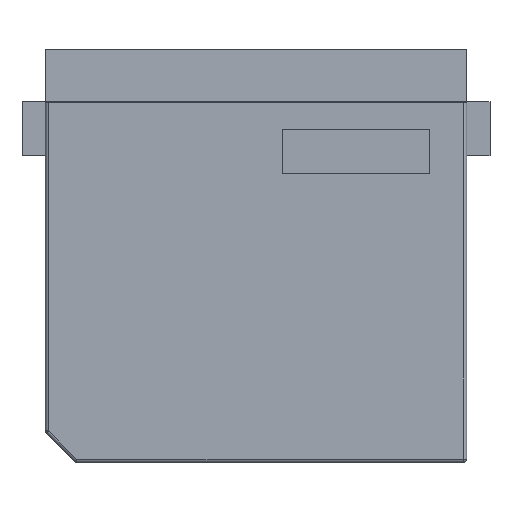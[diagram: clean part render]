
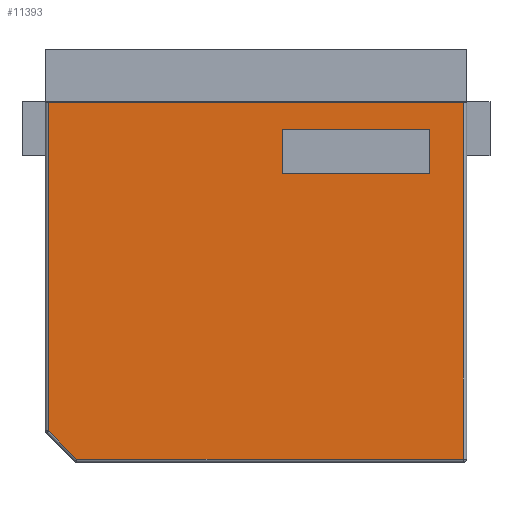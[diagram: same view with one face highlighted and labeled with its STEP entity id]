
A CAD part, front view. The second image highlights one B-rep face of the part: STEP entity #11393.
In plain terms, the highlighted planar face has unit normal (0, -1, 0).
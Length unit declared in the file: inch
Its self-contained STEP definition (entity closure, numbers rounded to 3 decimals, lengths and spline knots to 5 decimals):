
#357=DIRECTION('',(0.,0.,-1.));
#358=VECTOR('',#357,1.93279);
#359=CARTESIAN_POINT('',(0.01969,-0.04134,
0.49803));
#360=LINE('',#359,#358);
#361=DIRECTION('',(1.,0.,0.));
#362=VECTOR('',#361,2.44094);
#363=CARTESIAN_POINT('',(0.01969,-0.04134,
0.49803));
#364=LINE('',#363,#362);
#365=DIRECTION('',(0.,0.,1.));
#366=VECTOR('',#365,2.09843);
#367=CARTESIAN_POINT('',(2.46063,-0.04134,
-1.60039));
#368=LINE('',#367,#366);
#369=DIRECTION('',(1.,0.,0.));
#370=VECTOR('',#369,2.27531);
#371=CARTESIAN_POINT('',(0.18532,-0.04134,
-1.60039));
#372=LINE('',#371,#370);
#373=DIRECTION('',(0.707,0.,-0.707));
#374=VECTOR('',#373,0.23424);
#375=CARTESIAN_POINT('',(0.01969,-0.04134,
-1.43476));
#376=LINE('',#375,#374);
#377=DIRECTION('',(0.,0.,-1.));
#378=VECTOR('',#377,0.25984);
#379=CARTESIAN_POINT('',(1.39764,-0.04134,
0.34055));
#380=LINE('',#379,#378);
#381=DIRECTION('',(1.,0.,0.));
#382=VECTOR('',#381,0.86614);
#383=CARTESIAN_POINT('',(1.39764,-0.04134,
0.08071));
#384=LINE('',#383,#382);
#385=DIRECTION('',(0.,0.,1.));
#386=VECTOR('',#385,0.25984);
#387=CARTESIAN_POINT('',(2.26378,-0.04134,
0.08071));
#388=LINE('',#387,#386);
#389=DIRECTION('',(-1.,0.,0.));
#390=VECTOR('',#389,0.86614);
#391=CARTESIAN_POINT('',(2.26378,-0.04134,
0.34055));
#392=LINE('',#391,#390);
#10963=CARTESIAN_POINT('',(1.39764,-0.04134,
0.34055));
#10964=CARTESIAN_POINT('',(1.39764,-0.04134,
0.08071));
#10965=VERTEX_POINT('',#10963);
#10966=VERTEX_POINT('',#10964);
#10967=CARTESIAN_POINT('',(2.26378,-0.04134,
0.08071));
#10968=VERTEX_POINT('',#10967);
#10969=CARTESIAN_POINT('',(2.26378,-0.04134,
0.34055));
#10970=VERTEX_POINT('',#10969);
#10972=CARTESIAN_POINT('',(0.01969,-0.04134,
0.49803));
#10974=VERTEX_POINT('',#10972);
#10975=CARTESIAN_POINT('',(0.01969,-0.04134,
-1.43476));
#10976=VERTEX_POINT('',#10975);
#11007=CARTESIAN_POINT('',(0.18532,-0.04134,
-1.60039));
#11008=CARTESIAN_POINT('',(2.46063,-0.04134,
-1.60039));
#11009=VERTEX_POINT('',#11007);
#11010=VERTEX_POINT('',#11008);
#11011=CARTESIAN_POINT('',(2.46063,-0.04134,
0.49803));
#11013=VERTEX_POINT('',#11011);
#11367=CARTESIAN_POINT('',(1.24016,-0.04134,
-0.56102));
#11368=DIRECTION('',(0.,1.,0.));
#11369=DIRECTION('',(1.,0.,0.));
#11370=AXIS2_PLACEMENT_3D('',#11367,#11368,#11369);
#11371=PLANE('',#11370);
#11373=ORIENTED_EDGE('',*,*,#11372,.F.);
#11375=ORIENTED_EDGE('',*,*,#11374,.T.);
#11377=ORIENTED_EDGE('',*,*,#11376,.F.);
#11379=ORIENTED_EDGE('',*,*,#11378,.F.);
#11380=ORIENTED_EDGE('',*,*,#11358,.F.);
#11381=EDGE_LOOP('',(#11373,#11375,#11377,#11379,#11380));
#11382=FACE_OUTER_BOUND('',#11381,.F.);
#11384=ORIENTED_EDGE('',*,*,#11383,.T.);
#11386=ORIENTED_EDGE('',*,*,#11385,.T.);
#11388=ORIENTED_EDGE('',*,*,#11387,.T.);
#11390=ORIENTED_EDGE('',*,*,#11389,.T.);
#11391=EDGE_LOOP('',(#11384,#11386,#11388,#11390));
#11392=FACE_BOUND('',#11391,.F.);
#11393=ADVANCED_FACE('',(#11382,#11392),#11371,.F.);
#11358=EDGE_CURVE('',#10976,#11009,#376,.T.);
#11372=EDGE_CURVE('',#10974,#10976,#360,.T.);
#11374=EDGE_CURVE('',#10974,#11013,#364,.T.);
#11376=EDGE_CURVE('',#11010,#11013,#368,.T.);
#11378=EDGE_CURVE('',#11009,#11010,#372,.T.);
#11383=EDGE_CURVE('',#10965,#10966,#380,.T.);
#11385=EDGE_CURVE('',#10966,#10968,#384,.T.);
#11387=EDGE_CURVE('',#10968,#10970,#388,.T.);
#11389=EDGE_CURVE('',#10970,#10965,#392,.T.);
